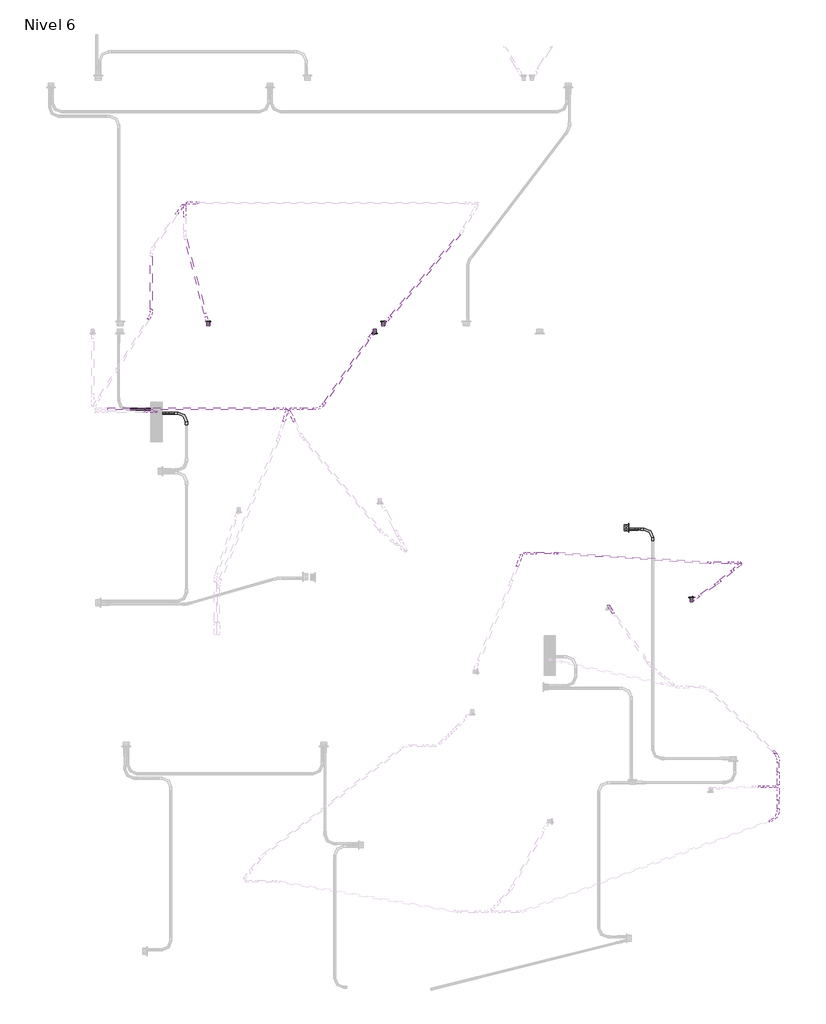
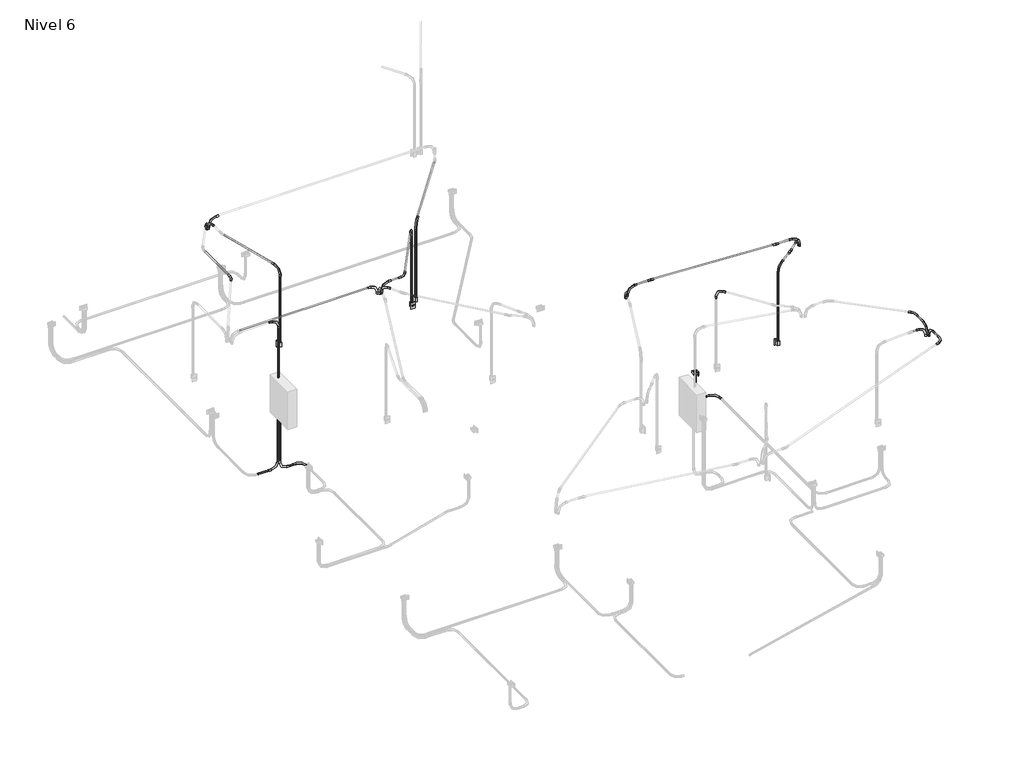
# One storey, part 6 of 9: 32 cable carrier fittings, 25 cable carrier segments, 4 switching devices, 1 proxy.
"""IFC4 building model written with IfcOpenShell, lengths in millimetres."""

from ifc_helpers import new_model, si_unit, point, frame, frame_2d, origin, place, context, project, spatial, circle_curve, trimmed, segment, composite_curve, outline, extrude, transform, mapped, element, save
from components import gfci_180f1b41, m_codo_de_tubo_extremo_liso_pvc_9da73e12, m_codo_de_tubo_extremo_liso_pvc_102f0f41, m_codo_de_tubo_extremo_liso_pvc_85a23a77, m_codo_de_tubo_extremo_liso_pvc_8f1ddfe3, m_codo_de_tubo_extremo_liso_pvc_f81803ff, m_codo_de_tubo_extremo_liso_pvc_82e95901, m_codo_de_tubo_extremo_liso_pvc_7c7b0098, m_codo_de_tubo_extremo_liso_pvc_2218d7ee, switching_device_22fed34b

model = new_model("IFC4")

# Units and contexts
model_context = context("Model", 3, world=origin())
ifc_project = project(units=[si_unit("LENGTHUNIT", "METRE", prefix="MILLI")], contexts=[model_context])

# Site, building, storey
site = spatial("IfcSite", under=ifc_project)
building = spatial("IfcBuilding", under=site)
storey = spatial("IfcBuildingStorey", under=building, Name="Nivel 6", Elevation=13400.0)

# Proxy
placement = place(None, origin())
gfci_shape = gfci_180f1b41(model_context)
element("IfcBuildingElementProxy", 1, Name="Tomacorriente doble 220V : GFCI", ObjectType="Tomacorriente doble 220V : GFCI", at=placement, inside=storey, context=model_context, shape_type="MappedRepresentation", body=[
    mapped(gfci_shape, transform((6335.0, 6550.2057218, 13800.0), x_axis=(0.0, 0.0, 1.0), y_axis=(0.0, -1.0, 0.0), z_axis=(1.0, 0.0, 0.0))),
])

# Cable carrier fittings
m_codo_de_tubo_extremo_liso_pvc_shape = m_codo_de_tubo_extremo_liso_pvc_9da73e12(model_context)
element("IfcCableCarrierFitting", 2, ObjectType="M_Codo de tubo - Extremo liso - PVC : CODO POTENCIA", at=placement, inside=storey, context=model_context, shape_type="MappedRepresentation", body=[
    mapped(m_codo_de_tubo_extremo_liso_pvc_shape, transform((646.6378129, 8024.3700682, 13330.0), x_axis=(0.0, 1.0, 0.0), y_axis=(-1.0, 0.0, 0.0), z_axis=(0.0, 0.0, 1.0))),
])
element("IfcCableCarrierFitting", 3, ObjectType="M_Codo de tubo - Extremo liso - PVC : CODO POTENCIA", at=placement, inside=storey, context=model_context, shape_type="MappedRepresentation", body=[
    mapped(m_codo_de_tubo_extremo_liso_pvc_shape, transform((6305.3628882, 6532.1739019, 13330.0), x_axis=(0.0, 0.0, -1.0), y_axis=(1.0, 0.0, 0.0), z_axis=(0.0, -1.0, 0.0))),
])
element("IfcCableCarrierFitting", 4, ObjectType="M_Codo de tubo - Extremo liso - PVC : CODO POTENCIA", at=placement, inside=storey, context=model_context, shape_type="MappedRepresentation", body=[
    mapped(m_codo_de_tubo_extremo_liso_pvc_shape, transform((6645.3628882, 6532.1739019, 13330.0), x_axis=(0.0, 1.0, 0.0), y_axis=(-1.0, 0.0, 0.0), z_axis=(0.0, 0.0, 1.0))),
])
element("IfcCableCarrierFitting", 5, ObjectType="M_Codo de tubo - Extremo liso - PVC : CODO POTENCIA", at=placement, inside=storey, context=model_context, shape_type="MappedRepresentation", body=[
    mapped(m_codo_de_tubo_extremo_liso_pvc_shape, transform((266.6378129, 8024.3700682, 13330.0), x_axis=(-1.0, 0.0, 0.0), y_axis=(0.0, 0.0, 1.0), z_axis=(0.0, 1.0, 0.0))),
])
element("IfcCableCarrierFitting", 6, ObjectType="M_Codo de tubo - Extremo liso - PVC : CODO POTENCIA", at=placement, inside=storey, context=model_context, shape_type="MappedRepresentation", body=[
    mapped(m_codo_de_tubo_extremo_liso_pvc_shape, transform((266.6378129, 8072.1728984, 13330.0), x_axis=(1.0, 0.0, 0.0), y_axis=(0.0, 0.0, 1.0), z_axis=(0.0, -1.0, 0.0))),
])
element("IfcCableCarrierFitting", 7, ObjectType="M_Codo de tubo - Extremo liso - PVC : CODO ILUMINACION", at=placement, inside=storey, context=model_context, shape_type="MappedRepresentation", body=[
    mapped(m_codo_de_tubo_extremo_liso_pvc_shape, transform((653.156803, 10728.1040304, 15950.0), x_axis=(-1.0, 0.0, 0.0), y_axis=(0.0, 0.0, -1.0), z_axis=(0.0, -1.0, 0.0))),
])
element("IfcCableCarrierFitting", 8, ObjectType="M_Codo de tubo - Extremo liso - PVC : CODO ILUMINACION", at=placement, inside=storey, context=model_context, shape_type="MappedRepresentation", body=[
    mapped(m_codo_de_tubo_extremo_liso_pvc_shape, transform((1990.6634239, 8079.477095, 15950.0), x_axis=(-1.0, 0.0, 0.0), y_axis=(0.0, 0.0, -1.0), z_axis=(0.0, -1.0, 0.0))),
])
element("IfcCableCarrierFitting", 9, ObjectType="M_Codo de tubo - Extremo liso - PVC : CODO ILUMINACION", at=placement, inside=storey, context=model_context, shape_type="MappedRepresentation", body=[
    mapped(m_codo_de_tubo_extremo_liso_pvc_shape, transform((4999.3062631, 6223.0933293, 15950.0), x_axis=(-1.0, 0.0, 0.0), y_axis=(0.0, 0.0, -1.0), z_axis=(0.0, -1.0, 0.0))),
])
element("IfcCableCarrierFitting", 10, ObjectType="M_Codo de tubo - Extremo liso - PVC : CODO ILUMINACION", at=placement, inside=storey, context=model_context, shape_type="MappedRepresentation", body=[
    mapped(m_codo_de_tubo_extremo_liso_pvc_shape, transform((926.2303285, 9156.4984426, 15950.0), x_axis=(0.0, 0.0, 1.0), y_axis=(-0.2602266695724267, 0.9655475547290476, 0.0), z_axis=(-0.9655475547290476, -0.2602266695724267, 0.0))),
])
element("IfcCableCarrierFitting", 11, ObjectType="M_Codo de tubo - Extremo liso - PVC : CODO ILUMINACION", at=placement, inside=storey, context=model_context, shape_type="MappedRepresentation", body=[
    mapped(m_codo_de_tubo_extremo_liso_pvc_shape, transform((3179.7984322, 9156.4984426, 15950.0), x_axis=(0.0, 0.0, 1.0), y_axis=(0.6445966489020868, 0.7645228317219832, 0.0), z_axis=(-0.7645228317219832, 0.6445966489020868, 0.0))),
])
element("IfcCableCarrierFitting", 12, ObjectType="M_Codo de tubo - Extremo liso - PVC : CODO ILUMINACION", at=placement, inside=storey, context=model_context, shape_type="MappedRepresentation", body=[
    mapped(m_codo_de_tubo_extremo_liso_pvc_shape, transform((254.508713, 8039.477095, 15950.0), x_axis=(1.0, 0.0, 0.0), y_axis=(0.0, 0.0, -1.0), z_axis=(0.0, 1.0, 0.0))),
])
element("IfcCableCarrierFitting", 13, ObjectType="M_Codo de tubo - Extremo liso - PVC : CODO ILUMINACION", at=placement, inside=storey, context=model_context, shape_type="MappedRepresentation", body=[
    mapped(m_codo_de_tubo_extremo_liso_pvc_shape, transform((3068.4547142, 9092.7761939, 15950.0), x_axis=(0.0, 0.0, 1.0), y_axis=(-0.5505291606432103, -0.8348159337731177, 0.0), z_axis=(0.8348159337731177, -0.5505291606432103, 0.0))),
])
element("IfcCableCarrierFitting", 14, ObjectType="M_Codo de tubo - Extremo liso - PVC : CODO ILUMINACION", at=placement, inside=storey, context=model_context, shape_type="MappedRepresentation", body=[
    mapped(m_codo_de_tubo_extremo_liso_pvc_shape, transform((1965.6733253, 8050.5125168, 15950.0), x_axis=(-0.4539904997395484, 0.8910065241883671, 0.0), y_axis=(0.0, 0.0, -1.0000000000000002), z_axis=(-0.8910065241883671, -0.4539904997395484, 0.0))),
])
element("IfcCableCarrierFitting", 15, ObjectType="M_Codo de tubo - Extremo liso - PVC : CODO ILUMINACION", at=placement, inside=storey, context=model_context, shape_type="MappedRepresentation", body=[
    mapped(m_codo_de_tubo_extremo_liso_pvc_shape, transform((1941.363654, 8059.8092985, 15950.0), x_axis=(0.29237170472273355, 0.9563047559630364, 0.0), y_axis=(0.0, 0.0, -1.0), z_axis=(-0.9563047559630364, 0.29237170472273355, 0.0))),
])
element("IfcCableCarrierFitting", 16, ObjectType="M_Codo de tubo - Extremo liso - PVC : CODO ILUMINACION", at=placement, inside=storey, context=model_context, shape_type="MappedRepresentation", body=[
    mapped(m_codo_de_tubo_extremo_liso_pvc_shape, transform((6078.116723, 5543.1388756, 15950.0), x_axis=(0.0, 0.0, 1.0), y_axis=(0.5625711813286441, -0.826748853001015, 0.0), z_axis=(0.826748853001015, 0.5625711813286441, 0.0))),
])
element("IfcCableCarrierFitting", 17, ObjectType="M_Codo de tubo - Extremo liso - PVC : CODO ILUMINACION", at=placement, inside=storey, context=model_context, shape_type="MappedRepresentation", body=[
    mapped(m_codo_de_tubo_extremo_liso_pvc_shape, transform((7776.1873768, 6083.6992929, 15950.0), x_axis=(0.7660444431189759, 0.6427876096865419, 0.0), y_axis=(0.0, 0.0, -1.0), z_axis=(-0.6427876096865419, 0.7660444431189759, 0.0))),
])
element("IfcCableCarrierFitting", 18, ObjectType="M_Codo de tubo - Extremo liso - PVC : CODO ILUMINACION", at=placement, inside=storey, context=model_context, shape_type="MappedRepresentation", body=[
    mapped(m_codo_de_tubo_extremo_liso_pvc_shape, transform((7145.6595037, 5606.8611243, 15950.0), x_axis=(0.0, 0.0, 1.0), y_axis=(0.83652662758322, 0.547926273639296, 0.0), z_axis=(-0.547926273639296, 0.83652662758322, 0.0))),
])
element("IfcCableCarrierFitting", 19, ObjectType="M_Codo de tubo - Extremo liso - PVC : CODO ILUMINACION", at=placement, inside=storey, context=model_context, shape_type="MappedRepresentation", body=[
    mapped(m_codo_de_tubo_extremo_liso_pvc_shape, transform((8259.7063426, 3195.6261964, 15950.0), x_axis=(0.0, 1.0, 0.0), y_axis=(0.0, 0.0, -1.0), z_axis=(-1.0, 0.0, 0.0))),
])
m_codo_de_tubo_extremo_liso_pvc_2_shape = m_codo_de_tubo_extremo_liso_pvc_102f0f41(model_context)
element("IfcCableCarrierFitting", 20, ObjectType="M_Codo de tubo - Extremo liso - PVC : CODO ILUMINACION", at=placement, inside=storey, context=model_context, shape_type="MappedRepresentation", body=[
    mapped(m_codo_de_tubo_extremo_liso_pvc_2_shape, transform((1918.4074294, 8079.477095, 15950.0), x_axis=(1.0, 0.0, 0.0), y_axis=(0.0, 0.0, 1.0), z_axis=(0.0, -1.0, 0.0))),
])
element("IfcCableCarrierFitting", 21, ObjectType="M_Codo de tubo - Extremo liso - PVC : CODO ILUMINACION", at=placement, inside=storey, context=model_context, shape_type="MappedRepresentation", body=[
    mapped(m_codo_de_tubo_extremo_liso_pvc_2_shape, transform((8218.8581979, 3215.497873, 15950.0), x_axis=(1.0, 0.0, 0.0), y_axis=(0.0, 0.0, 1.0), z_axis=(0.0, -1.0, 0.0))),
])
element("IfcCableCarrierFitting", 22, ObjectType="M_Codo de tubo - Extremo liso - PVC : CODO ILUMINACION", at=placement, inside=storey, context=model_context, shape_type="MappedRepresentation", body=[
    mapped(m_codo_de_tubo_extremo_liso_pvc_2_shape, transform((7771.5324777, 6096.4885231, 15950.0), x_axis=(1.0, 0.0, 0.0), y_axis=(0.0, 0.0, 1.0), z_axis=(0.0, -1.0, 0.0))),
])
element("IfcCableCarrierFitting", 23, ObjectType="M_Codo de tubo - Extremo liso - PVC : CODO ILUMINACION", at=placement, inside=storey, context=model_context, shape_type="MappedRepresentation", body=[
    mapped(m_codo_de_tubo_extremo_liso_pvc_2_shape, transform((622.9365839, 10697.8838113, 15950.0), x_axis=(0.0, 1.0, 0.0), y_axis=(0.0, 0.0, 1.0), z_axis=(1.0, 0.0, 0.0))),
])
element("IfcCableCarrierFitting", 24, ObjectType="M_Codo de tubo - Extremo liso - PVC : CODO ILUMINACION", at=placement, inside=storey, context=model_context, shape_type="MappedRepresentation", body=[
    mapped(m_codo_de_tubo_extremo_liso_pvc_2_shape, transform((601.1460064, 10701.0289234, 15950.0), x_axis=(0.573576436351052, 0.8191520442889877, 0.0), y_axis=(0.0, 0.0, 1.0), z_axis=(0.8191520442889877, -0.573576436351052, 0.0))),
])
element("IfcCableCarrierFitting", 25, ObjectType="M_Codo de tubo - Extremo liso - PVC : CODO ILUMINACION", at=placement, inside=storey, context=model_context, shape_type="MappedRepresentation", body=[
    mapped(m_codo_de_tubo_extremo_liso_pvc_2_shape, transform((4955.8969402, 6193.124704, 15950.0), x_axis=(0.3544492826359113, 0.9350752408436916, 0.0), y_axis=(0.0, 0.0, 1.0), z_axis=(0.9350752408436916, -0.3544492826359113, 0.0))),
])
element("IfcCableCarrierFitting", 26, ObjectType="M_Codo de tubo - Extremo liso - PVC : CODO ILUMINACION", at=placement, inside=storey, context=model_context, shape_type="MappedRepresentation", body=[
    mapped(m_codo_de_tubo_extremo_liso_pvc_2_shape, transform((8259.7063426, 3247.1851058, 15950.0), x_axis=(0.0, -1.0, 0.0), y_axis=(0.0, 0.0, 1.0), z_axis=(-1.0, 0.0, 0.0))),
])
m_codo_de_tubo_extremo_liso_pvc_3_shape = m_codo_de_tubo_extremo_liso_pvc_85a23a77(model_context)
element("IfcCableCarrierFitting", 27, ObjectType="M_Codo de tubo - Extremo liso - PVC : CODO ILUMINACION", at=placement, inside=storey, context=model_context, shape_type="MappedRepresentation", body=[
    mapped(m_codo_de_tubo_extremo_liso_pvc_3_shape, transform((192.5301532, 9291.2621651, 15950.0), x_axis=(0.529919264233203, 0.8480480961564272, 0.0), y_axis=(-0.8480480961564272, 0.529919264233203, 0.0), z_axis=(0.0, 0.0, 1.0))),
])
m_codo_de_tubo_extremo_liso_pvc_4_shape = m_codo_de_tubo_extremo_liso_pvc_8f1ddfe3(model_context)
element("IfcCableCarrierFitting", 28, ObjectType="M_Codo de tubo - Extremo liso - PVC : CODO ILUMINACION", at=placement, inside=storey, context=model_context, shape_type="MappedRepresentation", body=[
    mapped(m_codo_de_tubo_extremo_liso_pvc_4_shape, transform((7390.5324777, 6096.4885231, 15950.0), x_axis=(0.9980141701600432, -0.06298980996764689, 0.0), y_axis=(0.06298980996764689, 0.9980141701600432, 0.0), z_axis=(0.0, 0.0, 1.0))),
])
element("IfcCableCarrierFitting", 29, ObjectType="M_Codo de tubo - Extremo liso - PVC : CODO ILUMINACION", at=placement, inside=storey, context=model_context, shape_type="MappedRepresentation", body=[
    mapped(m_codo_de_tubo_extremo_liso_pvc_4_shape, transform((5384.5986508, 6223.0933293, 15950.0), x_axis=(-0.998014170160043, 0.06298980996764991, 0.0), y_axis=(-0.06298980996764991, -0.998014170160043, 0.0), z_axis=(0.0, 0.0, 1.0))),
])
m_codo_de_tubo_extremo_liso_pvc_5_shape = m_codo_de_tubo_extremo_liso_pvc_f81803ff(model_context)
element("IfcCableCarrierFitting", 30, ObjectType="M_Codo de tubo - Extremo liso - PVC : CODO ILUMINACION", at=placement, inside=storey, context=model_context, shape_type="MappedRepresentation", body=[
    mapped(m_codo_de_tubo_extremo_liso_pvc_5_shape, transform((2371.6634239, 8079.477095, 15950.0), x_axis=(1.0, 0.0, 0.0), y_axis=(0.0, 1.0, 0.0), z_axis=(0.0, 0.0, 1.0))),
])
m_codo_de_tubo_extremo_liso_pvc_6_shape = m_codo_de_tubo_extremo_liso_pvc_82e95901(model_context)
element("IfcCableCarrierFitting", 31, ObjectType="M_Codo de tubo - Extremo liso - PVC : CODO ILUMINACION", at=placement, inside=storey, context=model_context, shape_type="MappedRepresentation", body=[
    mapped(m_codo_de_tubo_extremo_liso_pvc_6_shape, transform((7484.324444, 5838.7972136, 15950.0), x_axis=(0.8365266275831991, 0.547926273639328, 0.0), y_axis=(-0.547926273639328, 0.8365266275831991, 0.0), z_axis=(0.0, 0.0, 1.0))),
])
m_codo_de_tubo_extremo_liso_pvc_7_shape = m_codo_de_tubo_extremo_liso_pvc_7c7b0098(model_context)
element("IfcCableCarrierFitting", 32, ObjectType="M_Codo de tubo - Extremo liso - PVC : CODO ILUMINACION", at=placement, inside=storey, context=model_context, shape_type="MappedRepresentation", body=[
    mapped(m_codo_de_tubo_extremo_liso_pvc_7_shape, transform((8259.7063426, 2814.6261964, 15950.0), x_axis=(0.9390534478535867, 0.3437711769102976, 0.0), y_axis=(-0.3437711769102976, 0.9390534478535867, 0.0), z_axis=(0.0, 0.0, 1.0))),
])
m_codo_de_tubo_extremo_liso_pvc_8_shape = m_codo_de_tubo_extremo_liso_pvc_2218d7ee(model_context)
element("IfcCableCarrierFitting", 33, ObjectType="M_Codo de tubo - Extremo liso - PVC : CODO ILUMINACION", at=placement, inside=storey, context=model_context, shape_type="MappedRepresentation", body=[
    mapped(m_codo_de_tubo_extremo_liso_pvc_8_shape, transform((8259.7063426, 3612.6880687, 15950.0), x_axis=(0.0, 1.0, 0.0), y_axis=(-1.0, 0.0, 0.0), z_axis=(0.0, 0.0, 1.0))),
])

# Cable carrier segments
element("IfcCableCarrierSegment", 34, ObjectType="PVC-SEL, POTENCIA", at=placement, inside=storey, context=model_context, shape_type="SweptSolid", body=[
    extrude(outline(composite_curve([segment(trimmed(circle_curve(frame_2d((8024.3700682, 13330.0)), 11.71), [point((8036.0800682, 13330.0))], [point((8024.3700682, 13318.29))], False, "CARTESIAN"), True, "CONTINUOUS"), segment(trimmed(circle_curve(frame_2d((8024.3700682, 13330.0)), 11.71), [point((8024.3700682, 13318.29))], [point((8012.6600682, 13330.0))], False, "CARTESIAN"), True, "CONTINUOUS"), segment(trimmed(circle_curve(frame_2d((8024.3700682, 13330.0)), 11.71), [point((8012.6600682, 13330.0))], [point((8024.3700682, 13341.71))], False, "CARTESIAN"), True, "CONTINUOUS"), segment(trimmed(circle_curve(frame_2d((8024.3700682, 13330.0)), 11.71), [point((8024.3700682, 13341.71))], [point((8036.0800682, 13330.0))], False, "CARTESIAN"), True, "CONTINUOUS")], self_intersect=False)), frame((419.0378129, 0.0, 0.0), z_axis=(1.0, 0.0, 0.0), x_axis=(0.0, 1.0, 0.0)), (0.0, 0.0, 1.0), 75.2),
])
element("IfcCableCarrierSegment", 35, ObjectType="PVC-SEL, POTENCIA", at=placement, inside=storey, context=model_context, shape_type="SweptSolid", body=[
    extrude(outline(composite_curve([segment(trimmed(circle_curve(frame_2d((8072.1728984, 13330.0)), 11.71), [point((8060.4628984, 13330.0))], [point((8072.1728984, 13341.71))], False, "CARTESIAN"), True, "CONTINUOUS"), segment(trimmed(circle_curve(frame_2d((8072.1728984, 13330.0)), 11.71), [point((8072.1728984, 13341.71))], [point((8083.8828984, 13330.0))], False, "CARTESIAN"), True, "CONTINUOUS"), segment(trimmed(circle_curve(frame_2d((8072.1728984, 13330.0)), 11.71), [point((8083.8828984, 13330.0))], [point((8072.1728984, 13318.29))], False, "CARTESIAN"), True, "CONTINUOUS"), segment(trimmed(circle_curve(frame_2d((8072.1728984, 13330.0)), 11.71), [point((8072.1728984, 13318.29))], [point((8060.4628984, 13330.0))], False, "CARTESIAN"), True, "CONTINUOUS")], self_intersect=False)), frame((-75.4463758, 0.0, 0.0), z_axis=(1.0, 0.0, 0.0), x_axis=(0.0, 1.0, 0.0)), (0.0, 0.0, 1.0), 189.6841887),
])
element("IfcCableCarrierSegment", 36, ObjectType="PVC-SEL, POTENCIA", at=placement, inside=storey, context=model_context, shape_type="SweptSolid", body=[
    extrude(outline(composite_curve([segment(trimmed(circle_curve(frame_2d((6532.1739019, 13330.0)), 11.71), [point((6520.4639019, 13330.0))], [point((6532.1739019, 13341.71))], False, "CARTESIAN"), True, "CONTINUOUS"), segment(trimmed(circle_curve(frame_2d((6532.1739019, 13330.0)), 11.71), [point((6532.1739019, 13341.71))], [point((6543.8839019, 13330.0))], False, "CARTESIAN"), True, "CONTINUOUS"), segment(trimmed(circle_curve(frame_2d((6532.1739019, 13330.0)), 11.71), [point((6543.8839019, 13330.0))], [point((6532.1739019, 13318.29))], False, "CARTESIAN"), True, "CONTINUOUS"), segment(trimmed(circle_curve(frame_2d((6532.1739019, 13330.0)), 11.71), [point((6532.1739019, 13318.29))], [point((6520.4639019, 13330.0))], False, "CARTESIAN"), True, "CONTINUOUS")], self_intersect=False)), frame((6457.7628882, 0.0, 0.0), z_axis=(1.0, 0.0, 0.0), x_axis=(0.0, 1.0, 0.0)), (0.0, 0.0, 1.0), 35.2),
])
element("IfcCableCarrierSegment", 37, ObjectType="PVC-SEL, POTENCIA", at=placement, inside=storey, context=model_context, shape_type="SweptSolid", body=[
    extrude(outline(composite_curve([segment(trimmed(circle_curve(frame_2d((6305.3628882, 6532.1739019)), 11.71), [point((6317.0728882, 6532.1739019))], [point((6305.3628882, 6520.4639019))], False, "CARTESIAN"), True, "CONTINUOUS"), segment(trimmed(circle_curve(frame_2d((6305.3628882, 6532.1739019)), 11.71), [point((6305.3628882, 6520.4639019))], [point((6293.6528882, 6532.1739019))], False, "CARTESIAN"), True, "CONTINUOUS"), segment(trimmed(circle_curve(frame_2d((6305.3628882, 6532.1739019)), 11.71), [point((6293.6528882, 6532.1739019))], [point((6305.3628882, 6543.8839019))], False, "CARTESIAN"), True, "CONTINUOUS"), segment(trimmed(circle_curve(frame_2d((6305.3628882, 6532.1739019)), 11.71), [point((6305.3628882, 6543.8839019))], [point((6317.0728882, 6532.1739019))], False, "CARTESIAN"), True, "CONTINUOUS")], self_intersect=False)), frame((0.0, 0.0, 13482.4), z_axis=(0.0, 0.0, 1.0), x_axis=(1.0, 0.0, 0.0)), (0.0, 0.0, 1.0), 297.3020537),
])
element("IfcCableCarrierSegment", 38, ObjectType="PVC-SEL, POTENCIA", at=placement, inside=storey, context=model_context, shape_type="SweptSolid", body=[
    extrude(outline(composite_curve([segment(trimmed(circle_curve(frame_2d((266.6378129, 8024.3700682)), 11.71), [point((254.9278129, 8024.3700682))], [point((266.6378129, 8036.0800682))], False, "CARTESIAN"), True, "CONTINUOUS"), segment(trimmed(circle_curve(frame_2d((266.6378129, 8024.3700682)), 11.71), [point((266.6378129, 8036.0800682))], [point((278.3478129, 8024.3700682))], False, "CARTESIAN"), True, "CONTINUOUS"), segment(trimmed(circle_curve(frame_2d((266.6378129, 8024.3700682)), 11.71), [point((278.3478129, 8024.3700682))], [point((266.6378129, 8012.6600682))], False, "CARTESIAN"), True, "CONTINUOUS"), segment(trimmed(circle_curve(frame_2d((266.6378129, 8024.3700682)), 11.71), [point((266.6378129, 8012.6600682))], [point((254.9278129, 8024.3700682))], False, "CARTESIAN"), True, "CONTINUOUS")], self_intersect=False)), frame((0.0, 0.0, 13482.4), z_axis=(0.0, 0.0, 1.0), x_axis=(1.0, 0.0, 0.0)), (0.0, 0.0, 1.0), 817.6),
])
element("IfcCableCarrierSegment", 39, ObjectType="PVC-SEL, POTENCIA", at=placement, inside=storey, context=model_context, shape_type="SweptSolid", body=[
    extrude(outline(composite_curve([segment(trimmed(circle_curve(frame_2d((266.6378129, 8072.1728984)), 11.71), [point((254.9278129, 8072.1728984))], [point((266.6378129, 8083.8828984))], False, "CARTESIAN"), True, "CONTINUOUS"), segment(trimmed(circle_curve(frame_2d((266.6378129, 8072.1728984)), 11.71), [point((266.6378129, 8083.8828984))], [point((278.3478129, 8072.1728984))], False, "CARTESIAN"), True, "CONTINUOUS"), segment(trimmed(circle_curve(frame_2d((266.6378129, 8072.1728984)), 11.71), [point((278.3478129, 8072.1728984))], [point((266.6378129, 8060.4628984))], False, "CARTESIAN"), True, "CONTINUOUS"), segment(trimmed(circle_curve(frame_2d((266.6378129, 8072.1728984)), 11.71), [point((266.6378129, 8060.4628984))], [point((254.9278129, 8072.1728984))], False, "CARTESIAN"), True, "CONTINUOUS")], self_intersect=False)), frame((0.0, 0.0, 13482.4), z_axis=(0.0, 0.0, 1.0), x_axis=(1.0, 0.0, 0.0)), (0.0, 0.0, 1.0), 817.6),
])
element("IfcCableCarrierSegment", 40, ObjectType="PVC-SEL ILUMINACION", at=placement, inside=storey, context=model_context, shape_type="SweptSolid", body=[
    extrude(outline(composite_curve([segment(trimmed(circle_curve(frame_2d((8079.477095, 15950.0)), 11.71), [point((8091.187095, 15950.0))], [point((8079.477095, 15938.29))], False, "CARTESIAN"), True, "CONTINUOUS"), segment(trimmed(circle_curve(frame_2d((8079.477095, 15950.0)), 11.71), [point((8079.477095, 15938.29))], [point((8067.767095, 15950.0))], False, "CARTESIAN"), True, "CONTINUOUS"), segment(trimmed(circle_curve(frame_2d((8079.477095, 15950.0)), 11.71), [point((8067.767095, 15950.0))], [point((8079.477095, 15961.71))], False, "CARTESIAN"), True, "CONTINUOUS"), segment(trimmed(circle_curve(frame_2d((8079.477095, 15950.0)), 11.71), [point((8079.477095, 15961.71))], [point((8091.187095, 15950.0))], False, "CARTESIAN"), True, "CONTINUOUS")], self_intersect=False)), frame((-365.491287, 0.0, 0.0), z_axis=(1.0, 0.0, 0.0), x_axis=(0.0, 1.0, 0.0)), (0.0, 0.0, 1.0), 2131.4987165),
])
element("IfcCableCarrierSegment", 41, ObjectType="PVC-SEL ILUMINACION", at=placement, inside=storey, context=model_context, shape_type="SweptSolid", body=[
    extrude(outline(composite_curve([segment(trimmed(circle_curve(frame_2d((0.0, 11.71)), 11.71), [point((11.71, 11.71))], [point((0.0, 0.0))], False, "CARTESIAN"), True, "CONTINUOUS"), segment(trimmed(circle_curve(frame_2d((0.0, 11.71)), 11.71), [point((0.0, 0.0))], [point((-11.71, 11.71))], False, "CARTESIAN"), True, "CONTINUOUS"), segment(trimmed(circle_curve(frame_2d((0.0, 11.71)), 11.71), [point((-11.71, 11.71))], [point((0.0, 23.42))], False, "CARTESIAN"), True, "CONTINUOUS"), segment(trimmed(circle_curve(frame_2d((0.0, 11.71)), 11.71), [point((0.0, 23.42))], [point((11.71, 11.71))], False, "CARTESIAN"), True, "CONTINUOUS")], self_intersect=False)), frame((7348.9118481, 6099.1154152, 15961.71), z_axis=(-0.9980141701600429, 0.06298980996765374, 0.0), x_axis=(0.06298980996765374, 0.9980141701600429, 0.0)), (0.0, 0.0, 1.0), 1926.5183052),
])
element("IfcCableCarrierSegment", 42, ObjectType="PVC-SEL ILUMINACION", at=placement, inside=storey, context=model_context, shape_type="SweptSolid", body=[
    extrude(outline(composite_curve([segment(trimmed(circle_curve(frame_2d((6223.0933293, 15950.0)), 11.71), [point((6211.3833293, 15950.0))], [point((6223.0933293, 15961.71))], False, "CARTESIAN"), True, "CONTINUOUS"), segment(trimmed(circle_curve(frame_2d((6223.0933293, 15950.0)), 11.71), [point((6223.0933293, 15961.71))], [point((6234.8033293, 15950.0))], False, "CARTESIAN"), True, "CONTINUOUS"), segment(trimmed(circle_curve(frame_2d((6223.0933293, 15950.0)), 11.71), [point((6234.8033293, 15950.0))], [point((6223.0933293, 15938.29))], False, "CARTESIAN"), True, "CONTINUOUS"), segment(trimmed(circle_curve(frame_2d((6223.0933293, 15950.0)), 11.71), [point((6223.0933293, 15938.29))], [point((6211.3833293, 15950.0))], False, "CARTESIAN"), True, "CONTINUOUS")], self_intersect=False)), frame((5151.7062631, 0.0, 0.0), z_axis=(1.0, 0.0, 0.0), x_axis=(0.0, 1.0, 0.0)), (0.0, 0.0, 1.0), 191.1889422),
])
element("IfcCableCarrierSegment", 43, ObjectType="PVC-SEL ILUMINACION", at=placement, inside=storey, context=model_context, shape_type="SweptSolid", body=[
    extrude(outline(composite_curve([segment(trimmed(circle_curve(frame_2d((6096.4885231, 15950.0)), 11.71), [point((6108.1985231, 15950.0))], [point((6096.4885231, 15938.29))], False, "CARTESIAN"), True, "CONTINUOUS"), segment(trimmed(circle_curve(frame_2d((6096.4885231, 15950.0)), 11.71), [point((6096.4885231, 15938.29))], [point((6084.7785231, 15950.0))], False, "CARTESIAN"), True, "CONTINUOUS"), segment(trimmed(circle_curve(frame_2d((6096.4885231, 15950.0)), 11.71), [point((6084.7785231, 15950.0))], [point((6096.4885231, 15961.71))], False, "CARTESIAN"), True, "CONTINUOUS"), segment(trimmed(circle_curve(frame_2d((6096.4885231, 15950.0)), 11.71), [point((6096.4885231, 15961.71))], [point((6108.1985231, 15950.0))], False, "CARTESIAN"), True, "CONTINUOUS")], self_intersect=False)), frame((7432.2359233, 0.0, 0.0), z_axis=(1.0, 0.0, 0.0), x_axis=(0.0, 1.0, 0.0)), (0.0, 0.0, 1.0), 186.8965544),
])
element("IfcCableCarrierSegment", 44, ObjectType="PVC-SEL ILUMINACION", at=placement, inside=storey, context=model_context, shape_type="SweptSolid", body=[
    extrude(outline(composite_curve([segment(trimmed(circle_curve(frame_2d((15950.0, 192.5301532)), 11.71), [point((15950.0, 180.8201532))], [point((15938.29, 192.5301532))], False, "CARTESIAN"), True, "CONTINUOUS"), segment(trimmed(circle_curve(frame_2d((15950.0, 192.5301532)), 11.71), [point((15938.29, 192.5301532))], [point((15950.0, 204.2401532))], False, "CARTESIAN"), True, "CONTINUOUS"), segment(trimmed(circle_curve(frame_2d((15950.0, 192.5301532)), 11.71), [point((15950.0, 204.2401532))], [point((15961.71, 192.5301532))], False, "CARTESIAN"), True, "CONTINUOUS"), segment(trimmed(circle_curve(frame_2d((15950.0, 192.5301532)), 11.71), [point((15961.71, 192.5301532))], [point((15950.0, 180.8201532))], False, "CARTESIAN"), True, "CONTINUOUS")], self_intersect=False)), frame((0.0, 9362.1371627, 0.0), z_axis=(0.0, 1.0, 0.0), x_axis=(0.0, 0.0, 1.0)), (0.0, 0.0, 1.0), 681.1891928),
])
element("IfcCableCarrierSegment", 45, ObjectType="PVC-SEL ILUMINACION", at=placement, inside=storey, context=model_context, shape_type="SweptSolid", body=[
    extrude(outline(composite_curve([segment(trimmed(circle_curve(frame_2d((0.0, -11.71)), 11.71), [point((-11.71, -11.71))], [point((0.0, 0.0))], False, "CARTESIAN"), True, "CONTINUOUS"), segment(trimmed(circle_curve(frame_2d((0.0, -11.71)), 11.71), [point((0.0, 0.0))], [point((11.71, -11.71))], False, "CARTESIAN"), True, "CONTINUOUS"), segment(trimmed(circle_curve(frame_2d((0.0, -11.71)), 11.71), [point((11.71, -11.71))], [point((0.0, -23.42))], False, "CARTESIAN"), True, "CONTINUOUS"), segment(trimmed(circle_curve(frame_2d((0.0, -11.71)), 11.71), [point((0.0, -23.42))], [point((-11.71, -11.71))], False, "CARTESIAN"), True, "CONTINUOUS")], self_intersect=False)), frame((886.5717841, 9303.6478899, 15938.29), z_axis=(-0.2513557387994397, 0.9678947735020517, 0.0), x_axis=(0.9678947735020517, 0.2513557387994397, 0.0)), (0.0, 0.0, 1.0), 993.7415821),
])
element("IfcCableCarrierSegment", 46, ObjectType="PVC-SEL ILUMINACION", at=placement, inside=storey, context=model_context, shape_type="SweptSolid", body=[
    extrude(outline(composite_curve([segment(trimmed(circle_curve(frame_2d((926.2303285, 9156.4984426)), 11.71), [point((914.5203285, 9156.4984426))], [point((926.2303285, 9168.2084426))], False, "CARTESIAN"), True, "CONTINUOUS"), segment(trimmed(circle_curve(frame_2d((926.2303285, 9156.4984426)), 11.71), [point((926.2303285, 9168.2084426))], [point((937.9403285, 9156.4984426))], False, "CARTESIAN"), True, "CONTINUOUS"), segment(trimmed(circle_curve(frame_2d((926.2303285, 9156.4984426)), 11.71), [point((937.9403285, 9156.4984426))], [point((926.2303285, 9144.7884426))], False, "CARTESIAN"), True, "CONTINUOUS"), segment(trimmed(circle_curve(frame_2d((926.2303285, 9156.4984426)), 11.71), [point((926.2303285, 9144.7884426))], [point((914.5203285, 9156.4984426))], False, "CARTESIAN"), True, "CONTINUOUS")], self_intersect=False)), frame((0.0, 0.0, 14640.2227463), z_axis=(0.0, 0.0, 1.0), x_axis=(1.0, 0.0, 0.0)), (0.0, 0.0, 1.0), 1157.3772537),
])
element("IfcCableCarrierSegment", 47, ObjectType="PVC-SEL ILUMINACION", at=placement, inside=storey, context=model_context, shape_type="SweptSolid", body=[
    extrude(outline(composite_curve([segment(trimmed(circle_curve(frame_2d((0.0, -11.71)), 11.71), [point((-11.7100001, -11.71))], [point((0.0, 0.0))], False, "CARTESIAN"), True, "CONTINUOUS"), segment(trimmed(circle_curve(frame_2d((0.0, -11.71)), 11.71), [point((0.0, 0.0))], [point((11.7099999, -11.71))], False, "CARTESIAN"), True, "CONTINUOUS"), segment(trimmed(circle_curve(frame_2d((0.0, -11.71)), 11.71), [point((11.7099999, -11.71))], [point((0.0, -23.42))], False, "CARTESIAN"), True, "CONTINUOUS"), segment(trimmed(circle_curve(frame_2d((0.0, -11.71)), 11.71), [point((0.0, -23.42))], [point((-11.7100001, -11.71))], False, "CARTESIAN"), True, "CONTINUOUS")], self_intersect=False)), frame((3278.0349615, 9273.0117221, 15938.29), z_axis=(0.6425373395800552, 0.7662543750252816, 0.0), x_axis=(0.7662543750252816, -0.6425373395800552, 0.0)), (0.0, 0.0, 1.0), 1378.8109741),
])
element("IfcCableCarrierSegment", 48, ObjectType="PVC-SEL ILUMINACION", at=placement, inside=storey, context=model_context, shape_type="SweptSolid", body=[
    extrude(outline(composite_curve([segment(trimmed(circle_curve(frame_2d((3179.7984322, 9156.4984426)), 11.71), [point((3168.0884322, 9156.4984426))], [point((3179.7984322, 9168.2084426))], False, "CARTESIAN"), True, "CONTINUOUS"), segment(trimmed(circle_curve(frame_2d((3179.7984322, 9156.4984426)), 11.71), [point((3179.7984322, 9168.2084426))], [point((3191.5084322, 9156.4984426))], False, "CARTESIAN"), True, "CONTINUOUS"), segment(trimmed(circle_curve(frame_2d((3179.7984322, 9156.4984426)), 11.71), [point((3191.5084322, 9156.4984426))], [point((3179.7984322, 9144.7884426))], False, "CARTESIAN"), True, "CONTINUOUS"), segment(trimmed(circle_curve(frame_2d((3179.7984322, 9156.4984426)), 11.71), [point((3179.7984322, 9144.7884426))], [point((3168.0884322, 9156.4984426))], False, "CARTESIAN"), True, "CONTINUOUS")], self_intersect=False)), frame((0.0, 0.0, 14640.2227463), z_axis=(0.0, 0.0, 1.0), x_axis=(1.0, 0.0, 0.0)), (0.0, 0.0, 1.0), 1157.3772537),
])
element("IfcCableCarrierSegment", 49, ObjectType="PVC-SEL ILUMINACION", at=placement, inside=storey, context=model_context, shape_type="SweptSolid", body=[
    extrude(outline(composite_curve([segment(trimmed(circle_curve(frame_2d((254.508713, 8039.477095)), 11.71), [point((242.798713, 8039.477095))], [point((254.508713, 8051.187095))], False, "CARTESIAN"), True, "CONTINUOUS"), segment(trimmed(circle_curve(frame_2d((254.508713, 8039.477095)), 11.71), [point((254.508713, 8051.187095))], [point((266.218713, 8039.477095))], False, "CARTESIAN"), True, "CONTINUOUS"), segment(trimmed(circle_curve(frame_2d((254.508713, 8039.477095)), 11.71), [point((266.218713, 8039.477095))], [point((254.508713, 8027.767095))], False, "CARTESIAN"), True, "CONTINUOUS"), segment(trimmed(circle_curve(frame_2d((254.508713, 8039.477095)), 11.71), [point((254.508713, 8027.767095))], [point((242.798713, 8039.477095))], False, "CARTESIAN"), True, "CONTINUOUS")], self_intersect=False)), frame((0.0, 0.0, 14900.0), z_axis=(0.0, 0.0, 1.0), x_axis=(1.0, 0.0, 0.0)), (0.0, 0.0, 1.0), 897.6),
])
element("IfcCableCarrierSegment", 50, ObjectType="PVC-SEL ILUMINACION", at=placement, inside=storey, context=model_context, shape_type="SweptSolid", body=[
    extrude(outline(composite_curve([segment(trimmed(circle_curve(frame_2d((0.0, 11.71)), 11.71), [point((11.71, 11.71))], [point((0.0, 0.0))], False, "CARTESIAN"), True, "CONTINUOUS"), segment(trimmed(circle_curve(frame_2d((0.0, 11.71)), 11.71), [point((0.0, 0.0))], [point((-11.71, 11.71))], False, "CARTESIAN"), True, "CONTINUOUS"), segment(trimmed(circle_curve(frame_2d((0.0, 11.71)), 11.71), [point((-11.71, 11.71))], [point((0.0, 23.42))], False, "CARTESIAN"), True, "CONTINUOUS"), segment(trimmed(circle_curve(frame_2d((0.0, 11.71)), 11.71), [point((0.0, 23.42))], [point((11.71, 11.71))], False, "CARTESIAN"), True, "CONTINUOUS")], self_intersect=False)), frame((2426.5181128, 8162.6580991, 15961.71), z_axis=(0.5707214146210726, 0.8211437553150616, 0.0), x_axis=(0.8211437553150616, -0.5707214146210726, 0.0)), (0.0, 0.0, 1.0), 977.7729433),
])
element("IfcCableCarrierSegment", 51, ObjectType="PVC-SEL ILUMINACION", at=placement, inside=storey, context=model_context, shape_type="SweptSolid", body=[
    extrude(outline(composite_curve([segment(trimmed(circle_curve(frame_2d((3068.4547142, 9092.7761939)), 11.71), [point((3056.7447142, 9092.7761939))], [point((3068.4547142, 9104.4861939))], False, "CARTESIAN"), True, "CONTINUOUS"), segment(trimmed(circle_curve(frame_2d((3068.4547142, 9092.7761939)), 11.71), [point((3068.4547142, 9104.4861939))], [point((3080.1647142, 9092.7761939))], False, "CARTESIAN"), True, "CONTINUOUS"), segment(trimmed(circle_curve(frame_2d((3068.4547142, 9092.7761939)), 11.71), [point((3080.1647142, 9092.7761939))], [point((3068.4547142, 9081.0661939))], False, "CARTESIAN"), True, "CONTINUOUS"), segment(trimmed(circle_curve(frame_2d((3068.4547142, 9092.7761939)), 11.71), [point((3068.4547142, 9081.0661939))], [point((3056.7447142, 9092.7761939))], False, "CARTESIAN"), True, "CONTINUOUS")], self_intersect=False)), frame((0.0, 0.0, 14640.2227463), z_axis=(0.0, 0.0, 1.0), x_axis=(1.0, 0.0, 0.0)), (0.0, 0.0, 1.0), 1157.3772537),
])
element("IfcCableCarrierSegment", 52, ObjectType="PVC-SEL ILUMINACION", at=placement, inside=storey, context=model_context, shape_type="SweptSolid", body=[
    extrude(outline(composite_curve([segment(trimmed(circle_curve(frame_2d((8079.477095, 15950.0)), 11.71), [point((8067.767095, 15950.0))], [point((8079.477095, 15961.71))], False, "CARTESIAN"), True, "CONTINUOUS"), segment(trimmed(circle_curve(frame_2d((8079.477095, 15950.0)), 11.71), [point((8079.477095, 15961.71))], [point((8091.187095, 15950.0))], False, "CARTESIAN"), True, "CONTINUOUS"), segment(trimmed(circle_curve(frame_2d((8079.477095, 15950.0)), 11.71), [point((8091.187095, 15950.0))], [point((8079.477095, 15938.29))], False, "CARTESIAN"), True, "CONTINUOUS"), segment(trimmed(circle_curve(frame_2d((8079.477095, 15950.0)), 11.71), [point((8079.477095, 15938.29))], [point((8067.767095, 15950.0))], False, "CARTESIAN"), True, "CONTINUOUS")], self_intersect=False)), frame((2143.0634239, 0.0, 0.0), z_axis=(1.0, 0.0, 0.0), x_axis=(0.0, 1.0, 0.0)), (0.0, 0.0, 1.0), 128.9600666),
])
element("IfcCableCarrierSegment", 53, ObjectType="PVC-SEL ILUMINACION", at=placement, inside=storey, context=model_context, shape_type="SweptSolid", body=[
    extrude(outline(composite_curve([segment(trimmed(circle_curve(frame_2d((0.0, -11.71)), 11.71), [point((-11.71, -11.71))], [point((0.0, 0.0))], False, "CARTESIAN"), True, "CONTINUOUS"), segment(trimmed(circle_curve(frame_2d((0.0, -11.71)), 11.71), [point((0.0, 0.0))], [point((11.71, -11.71))], False, "CARTESIAN"), True, "CONTINUOUS"), segment(trimmed(circle_curve(frame_2d((0.0, -11.71)), 11.71), [point((11.71, -11.71))], [point((0.0, -23.42))], False, "CARTESIAN"), True, "CONTINUOUS"), segment(trimmed(circle_curve(frame_2d((0.0, -11.71)), 11.71), [point((0.0, -23.42))], [point((-11.71, -11.71))], False, "CARTESIAN"), True, "CONTINUOUS")], self_intersect=False)), frame((7273.1461617, 5690.3650884, 15938.29), z_axis=(0.8141423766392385, 0.580665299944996, 0.0), x_axis=(0.580665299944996, -0.8141423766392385, 0.0)), (0.0, 0.0, 1.0), 213.2880732),
])
element("IfcCableCarrierSegment", 54, ObjectType="PVC-SEL ILUMINACION", at=placement, inside=storey, context=model_context, shape_type="SweptSolid", body=[
    extrude(outline(composite_curve([segment(trimmed(circle_curve(frame_2d((7145.6595037, 5606.8611243)), 11.71), [point((7133.9495037, 5606.8611243))], [point((7145.6595037, 5618.5711243))], False, "CARTESIAN"), True, "CONTINUOUS"), segment(trimmed(circle_curve(frame_2d((7145.6595037, 5606.8611243)), 11.71), [point((7145.6595037, 5618.5711243))], [point((7157.3695037, 5606.8611243))], False, "CARTESIAN"), True, "CONTINUOUS"), segment(trimmed(circle_curve(frame_2d((7145.6595037, 5606.8611243)), 11.71), [point((7157.3695037, 5606.8611243))], [point((7145.6595037, 5595.1511243))], False, "CARTESIAN"), True, "CONTINUOUS"), segment(trimmed(circle_curve(frame_2d((7145.6595037, 5606.8611243)), 11.71), [point((7145.6595037, 5595.1511243))], [point((7133.9495037, 5606.8611243))], False, "CARTESIAN"), True, "CONTINUOUS")], self_intersect=False)), frame((0.0, 0.0, 14640.2227463), z_axis=(0.0, 0.0, 1.0), x_axis=(1.0, 0.0, 0.0)), (0.0, 0.0, 1.0), 1157.3772537),
])
element("IfcCableCarrierSegment", 55, ObjectType="PVC-SEL ILUMINACION", at=placement, inside=storey, context=model_context, shape_type="SweptSolid", body=[
    extrude(outline(composite_curve([segment(trimmed(circle_curve(frame_2d((0.0, -11.71)), 11.71), [point((-11.71, -11.71))], [point((0.0, 0.0))], False, "CARTESIAN"), True, "CONTINUOUS"), segment(trimmed(circle_curve(frame_2d((0.0, -11.71)), 11.71), [point((0.0, 0.0))], [point((11.71, -11.71))], False, "CARTESIAN"), True, "CONTINUOUS"), segment(trimmed(circle_curve(frame_2d((0.0, -11.71)), 11.71), [point((11.71, -11.71))], [point((0.0, -23.42))], False, "CARTESIAN"), True, "CONTINUOUS"), segment(trimmed(circle_curve(frame_2d((0.0, -11.71)), 11.71), [point((0.0, -23.42))], [point((-11.71, -11.71))], False, "CARTESIAN"), True, "CONTINUOUS")], self_intersect=False)), frame((7518.693629, 5867.6363841, 15938.29), z_axis=(0.7660444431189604, 0.6427876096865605, 0.0), x_axis=(0.6427876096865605, -0.7660444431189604, 0.0)), (0.0, 0.0, 1.0), 183.7342154),
])
element("IfcCableCarrierSegment", 56, ObjectType="PVC-SEL ILUMINACION", at=placement, inside=storey, context=model_context, shape_type="SweptSolid", body=[
    extrude(outline(composite_curve([segment(trimmed(circle_curve(frame_2d((15950.0, 8259.7063426)), 11.71), [point((15950.0, 8247.9963426))], [point((15938.29, 8259.7063426))], False, "CARTESIAN"), True, "CONTINUOUS"), segment(trimmed(circle_curve(frame_2d((15950.0, 8259.7063426)), 11.71), [point((15938.29, 8259.7063426))], [point((15950.0, 8271.4163426))], False, "CARTESIAN"), True, "CONTINUOUS"), segment(trimmed(circle_curve(frame_2d((15950.0, 8259.7063426)), 11.71), [point((15950.0, 8271.4163426))], [point((15961.71, 8259.7063426))], False, "CARTESIAN"), True, "CONTINUOUS"), segment(trimmed(circle_curve(frame_2d((15950.0, 8259.7063426)), 11.71), [point((15961.71, 8259.7063426))], [point((15950.0, 8247.9963426))], False, "CARTESIAN"), True, "CONTINUOUS")], self_intersect=False)), frame((0.0, 2932.6012607, 0.0), z_axis=(0.0, 1.0, 0.0), x_axis=(0.0, 0.0, 1.0)), (0.0, 0.0, 1.0), 110.6249358),
])
element("IfcCableCarrierSegment", 57, ObjectType="PVC-SEL ILUMINACION", at=placement, inside=storey, context=model_context, shape_type="SweptSolid", body=[
    extrude(outline(composite_curve([segment(trimmed(circle_curve(frame_2d((15950.0, 8259.7063426)), 11.71), [point((15950.0, 8271.4163426))], [point((15961.71, 8259.7063426))], False, "CARTESIAN"), True, "CONTINUOUS"), segment(trimmed(circle_curve(frame_2d((15950.0, 8259.7063426)), 11.71), [point((15961.71, 8259.7063426))], [point((15950.0, 8247.9963426))], False, "CARTESIAN"), True, "CONTINUOUS"), segment(trimmed(circle_curve(frame_2d((15950.0, 8259.7063426)), 11.71), [point((15950.0, 8247.9963426))], [point((15938.29, 8259.7063426))], False, "CARTESIAN"), True, "CONTINUOUS"), segment(trimmed(circle_curve(frame_2d((15950.0, 8259.7063426)), 11.71), [point((15938.29, 8259.7063426))], [point((15950.0, 8271.4163426))], False, "CARTESIAN"), True, "CONTINUOUS")], self_intersect=False)), frame((0.0, 3399.5851058, 0.0), z_axis=(0.0, 1.0, 0.0), x_axis=(0.0, 0.0, 1.0)), (0.0, 0.0, 1.0), 126.3646559),
])
element("IfcCableCarrierSegment", 58, ObjectType="PVC-SEL ILUMINACION", at=placement, inside=storey, context=model_context, shape_type="SweptSolid", body=[
    extrude(outline(composite_curve([segment(trimmed(circle_curve(frame_2d((3215.497873, 15950.0)), 11.71), [point((3227.207873, 15950.0))], [point((3215.497873, 15938.29))], False, "CARTESIAN"), True, "CONTINUOUS"), segment(trimmed(circle_curve(frame_2d((3215.497873, 15950.0)), 11.71), [point((3215.497873, 15938.29))], [point((3203.787873, 15950.0))], False, "CARTESIAN"), True, "CONTINUOUS"), segment(trimmed(circle_curve(frame_2d((3215.497873, 15950.0)), 11.71), [point((3203.787873, 15950.0))], [point((3215.497873, 15961.71))], False, "CARTESIAN"), True, "CONTINUOUS"), segment(trimmed(circle_curve(frame_2d((3215.497873, 15950.0)), 11.71), [point((3215.497873, 15961.71))], [point((3227.207873, 15950.0))], False, "CARTESIAN"), True, "CONTINUOUS")], self_intersect=False)), frame((8006.7815542, 0.0, 0.0), z_axis=(1.0, 0.0, 0.0), x_axis=(0.0, 1.0, 0.0)), (0.0, 0.0, 1.0), 59.6766437),
])

# Switching devices
switching_device_shape = switching_device_22fed34b(model_context)
element("IfcSwitchingDevice", 59, ObjectType="Interruptor : Tridireccional", at=placement, inside=storey, context=model_context, shape_type="MappedRepresentation", body=[
    mapped(switching_device_shape, transform((926.1804829, 9199.6373182, 14600.0), x_axis=(-1.0, 0.0, 0.0), y_axis=(0.0, 0.0, 1.0), z_axis=(0.0, 1.0, 0.0))),
])
element("IfcSwitchingDevice", 60, ObjectType="Interruptor : Tridireccional", at=placement, inside=storey, context=model_context, shape_type="MappedRepresentation", body=[
    mapped(switching_device_shape, transform((3179.7485865, 9199.6373182, 14600.0), x_axis=(-1.0, 0.0, 0.0), y_axis=(0.0, 0.0, 1.0), z_axis=(0.0, 1.0, 0.0))),
])
element("IfcSwitchingDevice", 61, ObjectType="Interruptor : Tridireccional", at=placement, inside=storey, context=model_context, shape_type="MappedRepresentation", body=[
    mapped(switching_device_shape, transform((3068.5045599, 9049.6373182, 14600.0), x_axis=(1.0, 0.0, 0.0), y_axis=(0.0, 0.0, 1.0), z_axis=(0.0, -1.0, 0.0))),
])
element("IfcSwitchingDevice", 62, ObjectType="Interruptor : Tridireccional", at=placement, inside=storey, context=model_context, shape_type="MappedRepresentation", body=[
    mapped(switching_device_shape, transform((7145.609658, 5650.0, 14600.0), x_axis=(-1.0, 0.0, 0.0), y_axis=(0.0, 0.0, 1.0), z_axis=(0.0, 1.0, 0.0))),
])

save(model, "model.ifc")
